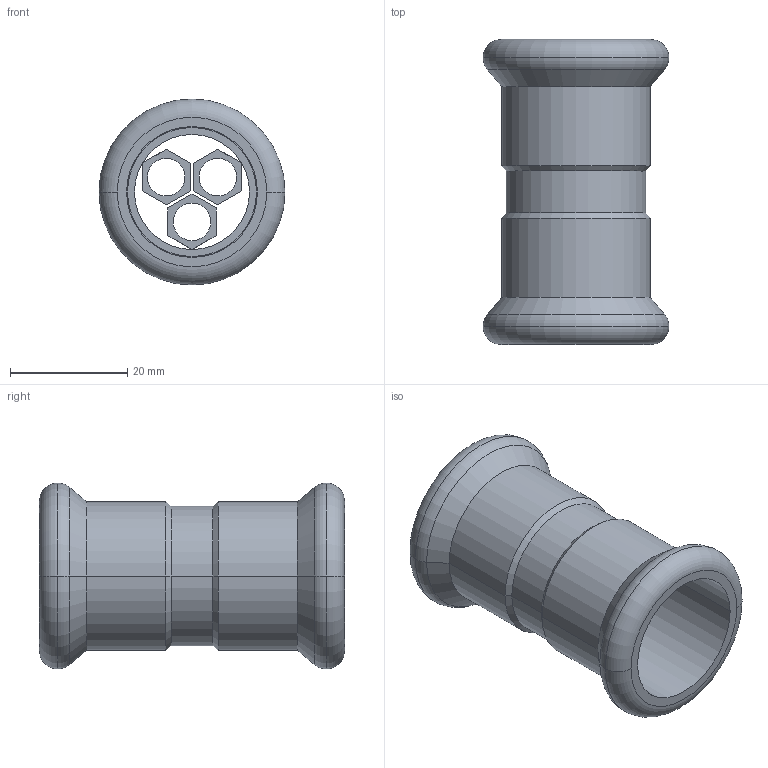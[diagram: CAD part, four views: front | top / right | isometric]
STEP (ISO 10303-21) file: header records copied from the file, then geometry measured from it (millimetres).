
FILE_DESCRIPTION(('OneSpaceDesigner STEP Export'),'2;1');
FILE_NAME('R2701 22x22.stp','2010-06-08T13:07:49',(''),(''),'OneSpace Designer STEP processor for AP214 (Solid Model)','OneSpace Modeling 15.00A 14-Mar-2007 (C) CoCreate Software GmbH','');
FILE_SCHEMA(('AUTOMOTIVE_DESIGN { 1 0 10303 214 1 1 1 1 }'));
Length unit declared in the file: millimetre
Products named in the file (2): R2701_22x22
Assembly tree (1 placements, depth 2):
  R2701_22x22
    R2701_22x22
Bounding box: 31.7 x 52 x 31.7 mm (x, y, z)
Volume: 9610.9 mm3; surface area: 9865.2 mm2
Topology: 1 solids, 1 shells, 110 faces, 274 edges, 176 vertices
Faces by surface type: plane 60, cylinder 34, cone 8, torus 8
Entity records: 2991 total; most frequent: ORIENTED_EDGE 548, CARTESIAN_POINT 490, DIRECTION 454, EDGE_CURVE 274, VERTEX_POINT 176, VECTOR 174, LINE 174, AXIS2_PLACEMENT_3D 140
